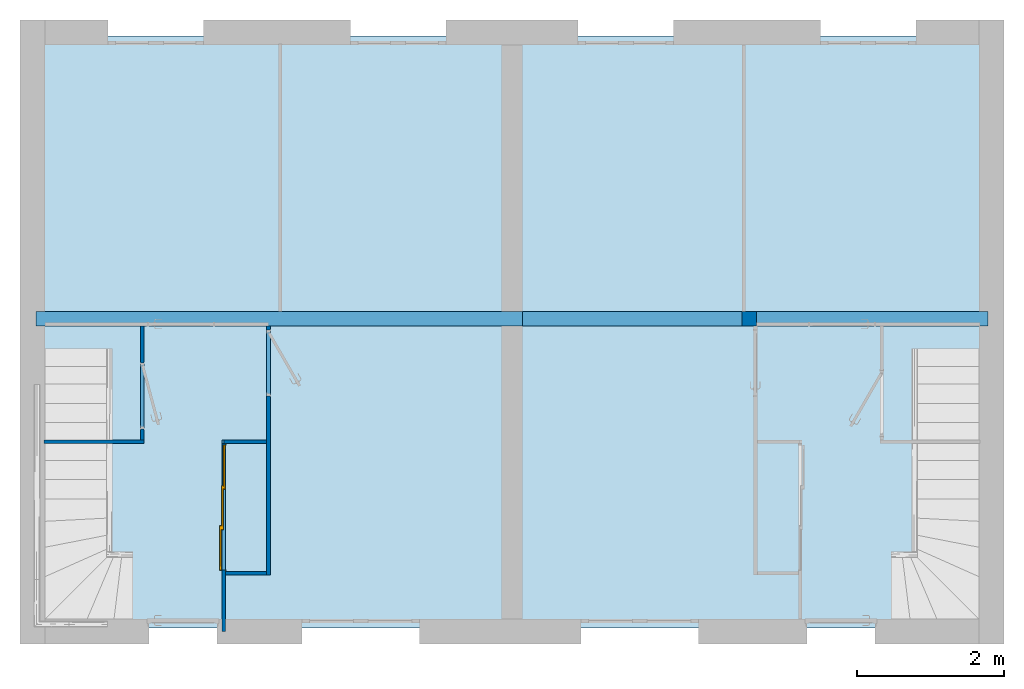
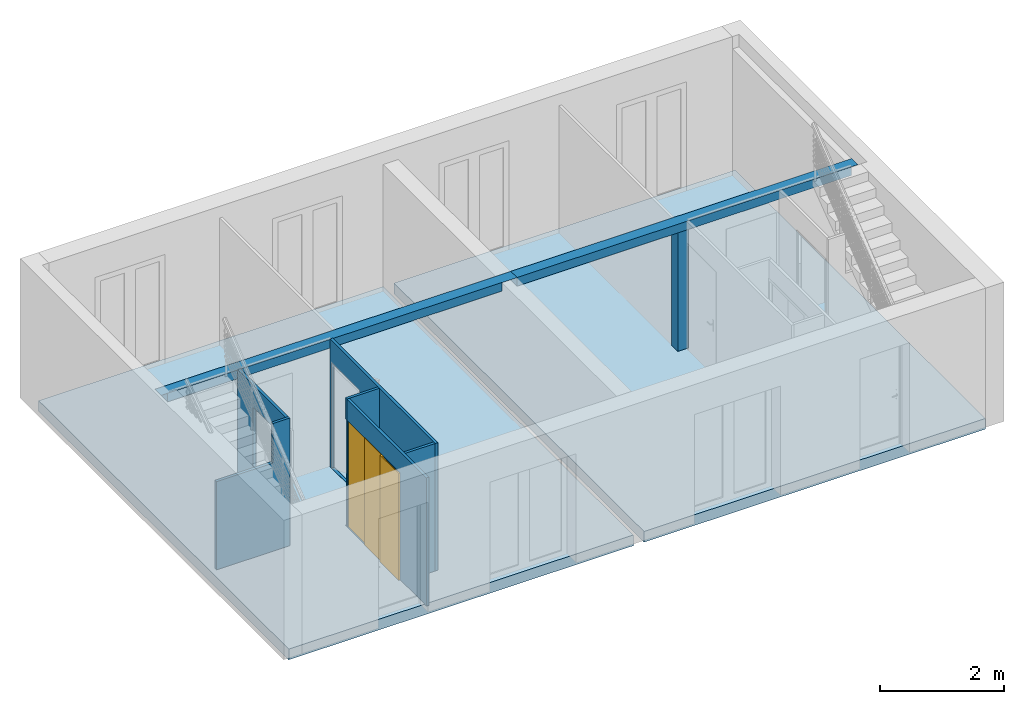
# One storey, part 1 of 9: 6 walls, 2 beams, 2 slabs, 1 column, 1 door, 6 openings.
"""IFC2X3 building model written with IfcOpenShell, lengths in metres."""

from ifc_helpers import new_model, entity, si_unit, converted_unit, derived_unit, direction, frame, frame_2d, origin, origin_2d_with_axis, place, context, subcontext, project, spatial, polyline, circle_curve, parameter, trimmed, segment, composite_curve, rectangle, outline, extrude, faceted_brep, source, transform, mapped, material, material_list, layer, layer_set, layer_usage, type_object, type_shapes, element, fill, save


model = new_model("IFC2X3")

# Units and contexts
model_context = context("Model", 3, precision=1e-05, world=origin(), true_north=direction((6.12303176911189e-17, 1.0)))
body_context = subcontext(model_context, "Body", "Model", "MODEL_VIEW")
ifc_project = project(units=[si_unit("LENGTHUNIT", "METRE"), si_unit("AREAUNIT", "SQUARE_METRE"), si_unit("VOLUMEUNIT", "CUBIC_METRE"), converted_unit("PLANEANGLEUNIT", "DEGREE", entity("IfcRatioMeasure", 0.0174532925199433), si_unit("PLANEANGLEUNIT", "RADIAN"), dimensions=[0, 0, 0, 0, 0, 0, 0]), si_unit("MASSUNIT", "GRAM", prefix="KILO"), si_unit("TIMEUNIT", "SECOND"), si_unit("FREQUENCYUNIT", "HERTZ"), si_unit("THERMODYNAMICTEMPERATUREUNIT", "DEGREE_CELSIUS"), derived_unit("THERMALTRANSMITTANCEUNIT", [(si_unit("MASSUNIT", "GRAM", prefix="KILO"), 1), (si_unit("THERMODYNAMICTEMPERATUREUNIT", "KELVIN"), -1), (si_unit("TIMEUNIT", "SECOND"), -3)]), derived_unit("VOLUMETRICFLOWRATEUNIT", [(si_unit("LENGTHUNIT", "METRE"), 3), (si_unit("TIMEUNIT", "SECOND"), -1)]), si_unit("ELECTRICCURRENTUNIT", "AMPERE"), si_unit("ELECTRICVOLTAGEUNIT", "VOLT"), si_unit("POWERUNIT", "WATT"), si_unit("FORCEUNIT", "NEWTON", prefix="KILO"), si_unit("ILLUMINANCEUNIT", "LUX"), si_unit("LUMINOUSFLUXUNIT", "LUMEN"), si_unit("LUMINOUSINTENSITYUNIT", "CANDELA"), derived_unit("USERDEFINED", [(si_unit("MASSUNIT", "GRAM", prefix="KILO"), -1), (si_unit("LENGTHUNIT", "METRE"), -2), (si_unit("TIMEUNIT", "SECOND"), 3), (si_unit("LUMINOUSFLUXUNIT", "LUMEN"), 1)]), derived_unit("LINEARVELOCITYUNIT", [(si_unit("LENGTHUNIT", "METRE"), 1), (si_unit("TIMEUNIT", "SECOND"), -1)]), si_unit("PRESSUREUNIT", "PASCAL"), derived_unit("USERDEFINED", [(si_unit("LENGTHUNIT", "METRE"), -2), (si_unit("MASSUNIT", "GRAM", prefix="KILO"), 1), (si_unit("TIMEUNIT", "SECOND"), -2)])], contexts=[model_context])

# Site, building, storey
site_placement = place(None, origin())
site = spatial("IfcSite", under=ifc_project, at=site_placement, Name="Surface", CompositionType="ELEMENT")
building_placement = place(site_placement, origin())
building = spatial("IfcBuilding", under=site, at=building_placement, CompositionType="ELEMENT")
storey_placement = place(building_placement, origin())
storey = spatial("IfcBuildingStorey", under=building, at=storey_placement, Name="Rez de chaussée", CompositionType="ELEMENT", Elevation=0.0)

# Column
ifc_material_1 = material(Name="Maçonnerie - Béton")
column_type = type_object("IfcColumnType", Name="200 x 200 mm", PredefinedType="COLUMN", material=ifc_material_1)
shared_shape_1 = source(origin(), body_context, "Body", "SweptSolid", [
    extrude(rectangle(XDim=0.2, YDim=0.2, at=origin_2d_with_axis()), frame((-1.70608881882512, 1.61425578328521, -0.61), z_axis=(0.0, 0.0, 1.0), x_axis=(0.0, -1.0, 0.0)), (0.0, 0.0, 1.0), 2.94),
])
type_shapes(column_type, [shared_shape_1])
column_placement = place(storey_placement, origin())
element("IfcColumn", 1, at=column_placement, inside=storey, type_object=column_type, material=ifc_material_1, Name="Poteau rectangulaire:200 x 200 mm", ObjectType="200 x 200 mm", context=body_context, shape_type="MappedRepresentation", body=[
    mapped(shared_shape_1, transform((0.0, 0.0, 0.0), scale=1.0)),
])

# Beams
beam_1_placement = place(storey_placement, frame((-11.4160888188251, 1.51425578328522, 2.33)))
element("IfcBeam", 2, at=beam_1_placement, inside=storey, material=ifc_material_1, Name="Poutre rectangulaire - Béton:200 x 400 mm", ObjectType="Poutre rectangulaire - Béton:200 x 400 mm", context=body_context, shape_type="Brep", body=[
    faceted_brep([(6.33999999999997, 0.0, 0.0), (6.33999999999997, 0.0, 0.168000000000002), (6.61999999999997, 0.0, 0.168000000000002), (6.61999999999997, 0.0, 0.170000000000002), (0.0, 0.0, 0.170000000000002), (0.0, 0.0, 0.168000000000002), (0.120000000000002, 0.0, 0.168000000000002), (0.120000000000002, 0.0, 0.0), (6.33999999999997, 0.200000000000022, 0.0), (0.120000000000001, 0.200000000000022, 0.0), (6.33999999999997, 0.200000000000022, 0.168000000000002), (0.120000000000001, 0.200000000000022, 0.168000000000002), (0.0, 0.200000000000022, 0.168000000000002), (0.0, 0.200000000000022, 0.170000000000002), (6.61999999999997, 0.200000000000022, 0.170000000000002), (6.61999999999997, 0.200000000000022, 0.168000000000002)], [[[0, 1, 2, 3, 4, 5, 6, 7]], [[8, 0, 7, 9]], [[10, 8, 9, 11, 12, 13, 14, 15]], [[10, 1, 0, 8]], [[6, 11, 9, 7]], [[1, 10, 15, 2]], [[11, 6, 5, 12]], [[12, 5, 4, 13]], [[2, 15, 14, 3]], [[4, 3, 14, 13]]]),
])
beam_2_placement = place(storey_placement, frame((-4.79608881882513, 1.5142557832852, 2.33)))
element("IfcBeam", 3, at=beam_2_placement, inside=storey, material=ifc_material_1, Name="Poutre rectangulaire - Béton:200 x 400 mm", ObjectType="Poutre rectangulaire - Béton:200 x 400 mm", context=body_context, shape_type="Brep", body=[
    faceted_brep([(6.22, 0.0, 0.0), (6.22, 0.0, 0.168000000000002), (6.34, 0.0, 0.168000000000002), (6.34, 0.0, 0.170000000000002), (0.0, 0.0, 0.170000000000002), (0.0, 0.0, 0.168000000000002), (0.0, 0.0, 0.0), (6.22, 0.20000000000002, 0.0), (0.0, 0.20000000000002, 0.0), (6.22, 0.20000000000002, 0.168000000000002), (0.0, 0.20000000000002, 0.168000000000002), (0.0, 0.20000000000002, 0.170000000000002), (6.34, 0.200000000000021, 0.170000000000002), (6.34, 0.200000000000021, 0.168000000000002)], [[[0, 1, 2, 3, 4, 5, 6]], [[7, 0, 6, 8]], [[9, 7, 8, 10, 11, 12, 13]], [[9, 1, 0, 7]], [[8, 6, 5, 4, 11, 10]], [[1, 9, 13, 2]], [[2, 13, 12, 3]], [[4, 3, 12, 11]]]),
])

# Slabs
ifc_layer_1 = layer(ifc_material_1, 0.13)
ifc_material_2 = material(Name="Maçonnerie - Isolant 1")
ifc_layer_2 = layer(ifc_material_2, 0.08)
ifc_layer_set_1 = layer_set([ifc_layer_1, ifc_layer_2], Name="Sol:Dalle en béton - 13")
ifc_layer_usage_1 = layer_usage(ifc_layer_set_1, "AXIS3", "POSITIVE", 0.0)
slab_1_placement = place(storey_placement, origin())
element("IfcSlab", 4, at=slab_1_placement, inside=storey, material=ifc_layer_usage_1, Name="Sol:Dalle en béton - 13", ObjectType="Sol:Dalle en béton - 13", PredefinedType="FLOOR", context=body_context, shape_type="SweptSolid", body=[
    extrude(rectangle(XDim=8.06000000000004, YDim=6.35000000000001, at=frame_2d((0.0, -3.10862446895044e-15), x_axis=(1.0, 0.0))), frame((-1.63108881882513, 1.4342557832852, 0.0), z_axis=(0.0, 0.0, -1.0), x_axis=(0.0, 1.0, 0.0)), (0.0, 0.0, 1.0), 0.21),
])
ifc_layer_usage_2 = layer_usage(ifc_layer_set_1, "AXIS3", "POSITIVE", 0.0)
slab_2_placement = place(storey_placement, origin())
element("IfcSlab", 5, at=slab_2_placement, inside=storey, material=ifc_layer_usage_2, Name="Sol:Dalle en béton - 13", ObjectType="Sol:Dalle en béton - 13", PredefinedType="FLOOR", context=body_context, shape_type="SweptSolid", body=[
    extrude(rectangle(XDim=8.06000000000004, YDim=6.40999999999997, at=frame_2d((0.0, -4.44089209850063e-16), x_axis=(1.0, 0.0))), frame((-8.21108881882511, 1.4342557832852, 0.0), z_axis=(0.0, 0.0, -1.0), x_axis=(0.0, 1.0, 0.0)), (0.0, 0.0, 1.0), 0.21),
])

# Wall, openings
ifc_material_3 = material(Name="Maçonnerie - Isolant(1)")
ifc_layer_3 = layer(ifc_material_3, 0.05)
ifc_layer_set_2 = layer_set([ifc_layer_3], Name="Mur de base:Int. plâtre 50 mm")
ifc_layer_usage_3 = layer_usage(ifc_layer_set_2, "AXIS2", "NEGATIVE", 0.025)
wall_type = type_object("IfcWallType", Name="Mur de base:Int. plâtre 50 mm", PredefinedType="STANDARD", material=ifc_layer_set_2)
wall_1_placement = place(storey_placement, frame((-9.94608881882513, -0.0607442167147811, -0.00999999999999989), z_axis=(0.0, 0.0, 1.0), x_axis=(-1.0, 0.0, 0.0)))
wall_1 = element("IfcWallStandardCase", 6, at=wall_1_placement, inside=storey, type_object=wall_type, material=ifc_layer_usage_3, Name="Mur de base:Int. plâtre 50 mm", ObjectType="Mur de base:Int. plâtre 50 mm", context=body_context, shape_type="SweptSolid", body=[
    extrude(rectangle(XDim=1.365, YDim=0.05, at=frame_2d((0.682500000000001, -3.46944695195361e-18), x_axis=(-1.0, 0.0))), origin(), (0.0, 0.0, 1.0), 2.52),
])
opening_1_placement = place(wall_1_placement, origin())
element("IfcOpeningElement", 7, at=opening_1_placement, cuts=wall_1, Name="Mur de base:Int. plâtre 50 mm", ObjectType="Opening", context=body_context, shape_type="SweptSolid", body=[
    extrude(rectangle(XDim=3.12955139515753, YDim=6.25910279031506, at=origin_2d_with_axis()), frame((2.57361778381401, -3.12955139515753, 2.9270066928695), z_axis=(0.0, 1.0, 0.0), x_axis=(-0.540430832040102, 0.0, -0.841388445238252)), (0.0, 0.0, 1.0), 6.25910279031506),
])
opening_2_placement = place(wall_1_placement, origin())
element("IfcOpeningElement", 8, at=opening_2_placement, cuts=wall_1, Name="Mur de base:Int. plâtre 50 mm", ObjectType="Opening", context=body_context, shape_type="SweptSolid", body=[
    extrude(outline(polyline([(-0.616296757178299, -0.216891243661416), (0.814660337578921, -0.216891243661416), (-0.198363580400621, 0.433782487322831), (-0.616296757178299, -0.216891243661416)])), frame((0.717339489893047, -0.025, 2.00177777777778), z_axis=(0.0, 1.0, 0.0), x_axis=(0.841388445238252, 0.0, -0.540430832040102)), (0.0, 0.0, 1.0), 0.05),
])

# Wall, opening
ifc_layer_usage_4 = layer_usage(ifc_layer_set_2, "AXIS2", "NEGATIVE", 0.025)
wall_2_placement = place(storey_placement, frame((-8.27608881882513, -0.0607442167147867, -0.00999999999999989), z_axis=(0.0, 0.0, 1.0), x_axis=(-1.0, 0.0, 0.0)))
wall_2 = element("IfcWallStandardCase", 9, at=wall_2_placement, inside=storey, type_object=wall_type, material=ifc_layer_usage_4, Name="Mur de base:Int. plâtre 50 mm", ObjectType="Mur de base:Int. plâtre 50 mm", context=body_context, shape_type="SweptSolid", body=[
    extrude(rectangle(XDim=0.610000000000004, YDim=0.05, at=frame_2d((0.305000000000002, 5.20417042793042e-18), x_axis=(-1.0, 0.0))), origin(), (0.0, 0.0, 1.0), 2.52),
])
opening_3_placement = place(wall_2_placement, origin())
element("IfcOpeningElement", 10, at=opening_3_placement, cuts=wall_2, Name="Mur de base:Int. plâtre 50 mm", ObjectType="Opening", context=body_context, shape_type="SweptSolid", body=[
    extrude(rectangle(XDim=2.09999999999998, YDim=0.0250000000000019, at=frame_2d((0.0, 5.41233724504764e-16), x_axis=(1.0, 0.0))), frame((0.597500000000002, -0.025, 1.05999999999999), z_axis=(0.0, 1.0, 0.0), x_axis=(0.0, 0.0, -1.0)), (0.0, 0.0, 1.0), 0.05),
])

ifc_layer_usage_5 = layer_usage(ifc_layer_set_2, "AXIS2", "NEGATIVE", 0.025)
wall_3_placement = place(storey_placement, frame((-9.97108881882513, 1.51425578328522, -0.00999999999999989), z_axis=(0.0, 0.0, 1.0), x_axis=(0.0, -1.0, 0.0)))
wall_3 = element("IfcWallStandardCase", 11, at=wall_3_placement, inside=storey, type_object=wall_type, material=ifc_layer_usage_5, Name="Mur de base:Int. plâtre 50 mm", ObjectType="Mur de base:Int. plâtre 50 mm", context=body_context, shape_type="SweptSolid", body=[
    extrude(rectangle(XDim=1.55, YDim=0.0500000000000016, at=frame_2d((0.775000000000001, 0.0), x_axis=(-1.0, 0.0))), origin(), (0.0, 0.0, 1.0), 2.52),
])
opening_4_placement = place(wall_3_placement, frame((0.500000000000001, -0.025, 0.00999999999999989)))
element("IfcOpeningElement", 12, at=opening_4_placement, cuts=wall_3, Name="Int. Simple:PP (0.83m x 2.04m):1", ObjectType="Opening", context=body_context, shape_type="SweptSolid", body=[
    extrude(rectangle(XDim=2.075, YDim=0.9, at=frame_2d((1.0375, 0.45), x_axis=(1.0, 0.0))), frame((0.0, 0.0, 0.0), z_axis=(0.0, 1.0, 0.0), x_axis=(0.0, 0.0, 1.0)), (0.0, 0.0, 1.0), 0.05),
])

ifc_layer_usage_6 = layer_usage(ifc_layer_set_2, "AXIS2", "NEGATIVE", 0.025)
wall_4_placement = place(storey_placement, frame((-8.25108881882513, 1.51425578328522, -0.00999999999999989), z_axis=(0.0, 0.0, 1.0), x_axis=(0.0, -1.0, 0.0)))
wall_4 = element("IfcWallStandardCase", 13, at=wall_4_placement, inside=storey, type_object=wall_type, material=ifc_layer_usage_6, Name="Mur de base:Int. plâtre 50 mm", ObjectType="Mur de base:Int. plâtre 50 mm", context=body_context, shape_type="SweptSolid", body=[
    extrude(rectangle(XDim=3.39000000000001, YDim=0.0499999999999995, at=frame_2d((1.69500000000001, 0.0), x_axis=(-1.0, 0.0))), origin(), (0.0, 0.0, 1.0), 2.52),
])
opening_5_placement = place(wall_4_placement, frame((0.05, -0.025, 0.00999999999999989)))
element("IfcOpeningElement", 14, at=opening_5_placement, cuts=wall_4, Name="Int. Simple:PP (0.83m x 2.04m):1", ObjectType="Opening", context=body_context, shape_type="SweptSolid", body=[
    extrude(rectangle(XDim=2.075, YDim=0.9, at=frame_2d((1.0375, 0.45), x_axis=(1.0, 0.0))), frame((0.0, 0.0, 0.0), z_axis=(0.0, 1.0, 0.0), x_axis=(0.0, 0.0, 1.0)), (0.0, 0.0, 1.0), 0.05),
])

# Wall
ifc_layer_usage_7 = layer_usage(ifc_layer_set_2, "AXIS2", "NEGATIVE", 0.025)
wall_5_placement = place(storey_placement, frame((-8.27608881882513, -1.85074421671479, -0.00999999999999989), z_axis=(0.0, 0.0, 1.0), x_axis=(-1.0, 0.0, 0.0)))
element("IfcWallStandardCase", 15, at=wall_5_placement, inside=storey, type_object=wall_type, material=ifc_layer_usage_7, Name="Mur de base:Int. plâtre 50 mm", ObjectType="Mur de base:Int. plâtre 50 mm", context=body_context, shape_type="SweptSolid", body=[
    extrude(rectangle(XDim=0.560000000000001, YDim=0.05, at=frame_2d((0.28, 0.0), x_axis=(-1.0, 0.0))), origin(), (0.0, 0.0, 1.0), 2.52),
])

# Wall, opening, door
ifc_layer_usage_8 = layer_usage(ifc_layer_set_2, "AXIS2", "NEGATIVE", 0.025)
wall_6_placement = place(storey_placement, frame((-8.86108881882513, -0.0857442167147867, -0.00999999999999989), z_axis=(0.0, 0.0, 1.0), x_axis=(0.0, -1.0, 0.0)))
wall_6 = element("IfcWallStandardCase", 16, at=wall_6_placement, inside=storey, type_object=wall_type, material=ifc_layer_usage_8, Name="Mur de base:Int. plâtre 50 mm", ObjectType="Mur de base:Int. plâtre 50 mm", context=body_context, shape_type="SweptSolid", body=[
    extrude(rectangle(XDim=2.56000000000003, YDim=0.0499999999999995, at=frame_2d((1.28000000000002, 0.0), x_axis=(-1.0, 0.0))), origin(), (0.0, 0.0, 1.0), 2.52),
])
opening_6_placement = place(wall_6_placement, frame((0.0200000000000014, -0.025, 0.00999999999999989)))
opening_6 = element("IfcOpeningElement", 17, at=opening_6_placement, cuts=wall_6, Name="Placard coulissante - 3 panneaux:Placard coulissante - 3 panneaux:1", ObjectType="Opening", context=body_context, shape_type="SweptSolid", body=[
    extrude(rectangle(XDim=2.09999999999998, YDim=1.7, at=frame_2d((1.04999999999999, 0.85), x_axis=(1.0, 0.0))), frame((0.0, 0.0, 0.0), z_axis=(0.0, 1.0, 0.0), x_axis=(0.0, 0.0, 1.0)), (0.0, 0.0, 1.0), 0.05),
])
ifc_material_4 = material(Name="Placard - Profil")
ifc_material_5 = material(Name="Placard - Encadrement")
ifc_material_6 = material(Name="Placard - Porte")
ifc_material_list_1 = material_list([ifc_material_4, ifc_material_5, ifc_material_6])
ifc_material_list_2 = material_list([ifc_material_4, ifc_material_5, ifc_material_6])
door_style = type_object("IfcDoorStyle", Name="Placard coulissante - 3 panneaux", ConstructionType="NOTDEFINED", OperationType="SLIDING_TO_RIGHT", ParameterTakesPrecedence=False, Sizeable=False, material=ifc_material_list_2)
shared_shape_2 = source(origin(), body_context, "Body", "SweptSolid", [
    extrude(outline(composite_curve([segment(polyline([(-0.0250000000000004, -0.00100000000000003), (0.0249999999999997, -0.00100000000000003)]), True, "CONTINUOUS"), segment(polyline([(0.0249999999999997, -0.00100000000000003), (0.0249999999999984, 0.00100000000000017)]), True, "CONTINUOUS"), segment(trimmed(circle_curve(frame_2d((0.0, -0.212860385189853), x_axis=(-1.0, 0.0)), 0.215316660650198), [parameter(263.332459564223)], [parameter(276.667540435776)], True, "PARAMETER"), True, "CONTINUOUS"), segment(polyline([(-0.0250000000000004, 0.00100000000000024), (-0.0250000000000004, -0.00100000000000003)]), True, "CONTINUOUS")], self_intersect=False)), frame((1.675, 0.00899999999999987, 0.0), z_axis=(0.0, 0.0, 1.0), x_axis=(-1.0, 0.0, 0.0)), (0.0, 0.0, 1.0), 2.1),
    extrude(outline(composite_curve([segment(polyline([(-0.0250000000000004, -0.00100000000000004), (0.0249999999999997, -0.00100000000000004)]), True, "CONTINUOUS"), segment(polyline([(0.0249999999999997, -0.00100000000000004), (0.0249999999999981, 0.00100000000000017)]), True, "CONTINUOUS"), segment(trimmed(circle_curve(frame_2d((0.0, -0.212860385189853), x_axis=(-1.0, 0.0)), 0.215316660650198), [parameter(263.332459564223)], [parameter(276.667540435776)], True, "PARAMETER"), True, "CONTINUOUS"), segment(polyline([(-0.0250000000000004, 0.00100000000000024), (-0.0250000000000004, -0.00100000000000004)]), True, "CONTINUOUS")], self_intersect=False)), frame((1.125, 0.00900000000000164, 0.0), z_axis=(0.0, 0.0, 1.0), x_axis=(-1.0, 0.0, 0.0)), (0.0, 0.0, 1.0), 2.1),
    extrude(outline(composite_curve([segment(polyline([(-0.0250000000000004, -0.00100000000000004), (0.0249999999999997, -0.00100000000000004)]), True, "CONTINUOUS"), segment(polyline([(0.0249999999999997, -0.00100000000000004), (0.0249999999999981, 0.00100000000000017)]), True, "CONTINUOUS"), segment(trimmed(circle_curve(frame_2d((0.0, -0.212860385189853), x_axis=(-1.0, 0.0)), 0.215316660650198), [parameter(263.332459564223)], [parameter(276.667540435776)], True, "PARAMETER"), True, "CONTINUOUS"), segment(polyline([(-0.0250000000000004, 0.00100000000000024), (-0.0250000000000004, -0.00100000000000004)]), True, "CONTINUOUS")], self_intersect=False)), frame((1.125, 0.0340000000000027, 0.0), z_axis=(0.0, 0.0, 1.0), x_axis=(-1.0, 0.0, 0.0)), (0.0, 0.0, 1.0), 2.1),
    extrude(outline(composite_curve([segment(polyline([(-0.0250000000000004, -0.00100000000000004), (0.0249999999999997, -0.00100000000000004)]), True, "CONTINUOUS"), segment(polyline([(0.0249999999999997, -0.00100000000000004), (0.0249999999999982, 0.00100000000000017)]), True, "CONTINUOUS"), segment(trimmed(circle_curve(frame_2d((0.0, -0.212860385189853), x_axis=(-1.0, 0.0)), 0.215316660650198), [parameter(263.332459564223)], [parameter(276.667540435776)], True, "PARAMETER"), True, "CONTINUOUS"), segment(polyline([(-0.0250000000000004, 0.00100000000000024), (-0.0250000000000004, -0.00100000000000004)]), True, "CONTINUOUS")], self_intersect=False)), frame((0.575000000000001, 0.0340000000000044, 0.0), z_axis=(0.0, 0.0, 1.0), x_axis=(-1.0, 0.0, 0.0)), (0.0, 0.0, 1.0), 2.1),
    extrude(outline(composite_curve([segment(polyline([(-0.0250000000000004, -0.00100000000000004), (0.0249999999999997, -0.00100000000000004)]), True, "CONTINUOUS"), segment(polyline([(0.0249999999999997, -0.00100000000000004), (0.0249999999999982, 0.00100000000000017)]), True, "CONTINUOUS"), segment(trimmed(circle_curve(frame_2d((0.0, -0.212860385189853), x_axis=(-1.0, 0.0)), 0.215316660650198), [parameter(263.332459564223)], [parameter(276.667540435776)], True, "PARAMETER"), True, "CONTINUOUS"), segment(polyline([(-0.0250000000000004, 0.00100000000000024), (-0.0250000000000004, -0.00100000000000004)]), True, "CONTINUOUS")], self_intersect=False)), frame((0.575000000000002, 0.0590000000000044, 0.0), z_axis=(0.0, 0.0, 1.0), x_axis=(-1.0, 0.0, 0.0)), (0.0, 0.0, 1.0), 2.1),
    extrude(outline(composite_curve([segment(polyline([(-0.0250000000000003, -0.00100000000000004), (0.0249999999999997, -0.00100000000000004)]), True, "CONTINUOUS"), segment(polyline([(0.0249999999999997, -0.00100000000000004), (0.0249999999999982, 0.00100000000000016)]), True, "CONTINUOUS"), segment(trimmed(circle_curve(frame_2d((0.0, -0.212860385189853), x_axis=(-1.0, 0.0)), 0.215316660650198), [parameter(263.332459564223)], [parameter(276.667540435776)], True, "PARAMETER"), True, "CONTINUOUS"), segment(polyline([(-0.0250000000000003, 0.00100000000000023), (-0.0250000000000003, -0.00100000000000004)]), True, "CONTINUOUS")], self_intersect=False)), frame((0.0249999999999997, 0.0590000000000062, 0.0), z_axis=(0.0, 0.0, 1.0), x_axis=(-1.0, 0.0, 0.0)), (0.0, 0.0, 1.0), 2.1),
    extrude(outline(polyline([(-1.06149999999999, -0.898), (1.08649999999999, -0.898), (1.08649999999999, 0.898), (-1.06149999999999, 0.898), (-1.06149999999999, 0.848), (1.03649999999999, 0.848), (1.03649999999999, -0.848), (-1.06149999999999, -0.848), (-1.06149999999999, -0.898)])), frame((0.85, -0.003, 1.06149999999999), z_axis=(0.0, 1.0, 0.0), x_axis=(0.0, 0.0, 1.0)), (0.0, 0.0, 1.0), 0.003),
    extrude(rectangle(XDim=0.020000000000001, YDim=0.6, at=origin_2d_with_axis()), frame((1.4, 0.0200000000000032, 0.0), z_axis=(0.0, 0.0, 1.0), x_axis=(0.0, 1.0, 0.0)), (0.0, 0.0, 1.0), 2.1),
    extrude(rectangle(XDim=0.600000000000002, YDim=0.02, at=origin_2d_with_axis()), frame((0.300000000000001, 0.0700000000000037, 0.0), z_axis=(0.0, 0.0, 1.0), x_axis=(-1.0, 0.0, 0.0)), (0.0, 0.0, 1.0), 2.1),
    extrude(rectangle(XDim=0.02, YDim=0.599999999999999, at=frame_2d((0.0, -2.77555756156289e-17), x_axis=(1.0, 0.0))), frame((0.85, 0.0450000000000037, 0.0), z_axis=(0.0, 0.0, 1.0), x_axis=(0.0, 1.0, 0.0)), (0.0, 0.0, 1.0), 2.1),
])
type_shapes(door_style, [shared_shape_2])
door_placement = place(opening_6_placement, frame((1.7, 0.0500000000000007, 0.0), z_axis=(0.0, 0.0, 1.0), x_axis=(-1.0, 0.0, 0.0)))
door = element("IfcDoor", 18, at=door_placement, inside=storey, type_object=door_style, material=ifc_material_list_1, Name="Placard coulissante - 3 panneaux:Placard coulissante - 3 panneaux", ObjectType="Placard coulissante - 3 panneaux", OverallHeight=2.09999999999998, OverallWidth=1.7, context=body_context, shape_type="MappedRepresentation", body=[
    mapped(shared_shape_2, transform((0.0, 0.0, 0.0), scale=1.0)),
])
fill(opening_6, door)

save(model, "model.ifc")
